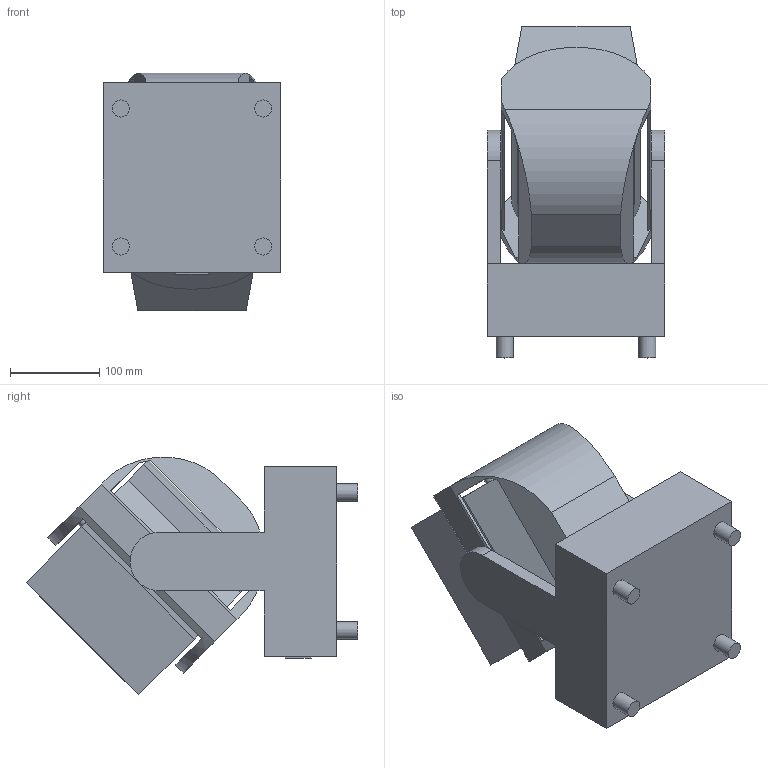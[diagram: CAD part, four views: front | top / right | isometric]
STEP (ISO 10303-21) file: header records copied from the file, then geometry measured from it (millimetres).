
FILE_DESCRIPTION(/* description */ (''),/* implementation_level */ '2;1');
FILE_NAME(/* name */ 'COLORado PXL Curve 1_45.step',/* time_stamp */ '2026-02-20T11:14:12-05:00',/* author */ (''),/* organization */ (''),/* preprocessor_version */ 'ST-DEVELOPER v20.1',/* originating_system */ 'Autodesk Translation Framework v14.24.0.0',/* authorisation */ '');
FILE_SCHEMA (('AUTOMOTIVE_DESIGN { 1 0 10303 214 3 1 1 }'));
Length unit declared in the file: millimetre
Products named in the file (5): ROIP-200C-01-00_ASM; head; tilt (1); Part10; Base
Assembly tree (4 placements, depth 3):
  ROIP-200C-01-00_ASM
    head
      tilt (1)
      Part10
    Base
Bounding box: 199 x 372.87 x 267.15 mm (x, y, z)
Volume: 8974860.8 mm3; surface area: 543826.6 mm2
Topology: 3 solids, 3 shells, 73 faces, 180 edges, 120 vertices
Faces by surface type: plane 54, cylinder 19
Full cylindrical faces by diameter (mm): 14 x2, 19.18 x4, 26.5 x2
Entity records: 2312 total; most frequent: DIRECTION 386, CARTESIAN_POINT 382, ORIENTED_EDGE 360, EDGE_CURVE 180, LINE 138, VECTOR 138, AXIS2_PLACEMENT_3D 124, VERTEX_POINT 120
